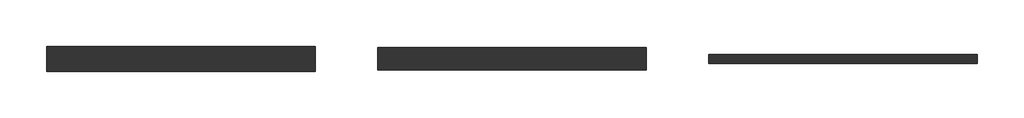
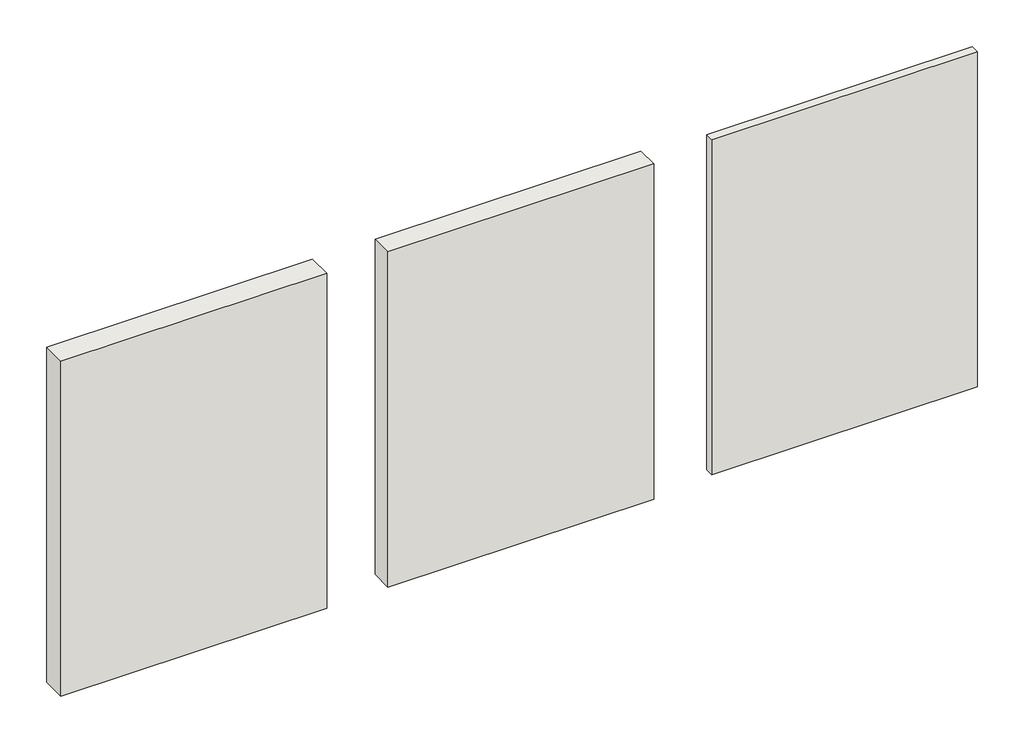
# One storey: 3 walls.
"""IFC4 building model written with IfcOpenShell, lengths in millimetres."""

from ifc_helpers import new_model, si_unit, origin, origin_with_axes, place, context, project, spatial, polyline, outline, extrude, element, save

model = new_model("IFC4")

# Units and contexts
model_context = context("Model", 3, world=origin())
ifc_project = project(units=[si_unit("LENGTHUNIT", "METRE", prefix="MILLI")], contexts=[model_context])

# Site, building, storey
site = spatial("IfcSite", under=ifc_project)
building = spatial("IfcBuilding", under=site)
storey = spatial("IfcBuildingStorey", under=building, Name="Уровень 1", Elevation=0.0)

# Walls
placement = place(None, origin())
element("IfcWall", 1, ObjectType="Перегородка КНАУФ ПГП 100 Применение внутри здания Двойная ПлГ 100", at=placement, inside=storey, context=model_context, shape_type="SweptSolid", body=[
    extrude(outline(polyline([(2657.3606987, -52.2792692), (-342.6393013, -52.2792692), (-342.6393013, 227.7207308), (2657.3606987, 227.7207308), (2657.3606987, -52.2792692)])), origin_with_axes(), (0.0, 0.0, 1.0), 4000.0),
])
element("IfcWall", 2, ObjectType="Перегородка КНАУФ ПГП 100 Применение внутри здания Двойная ПлГ 100 Мин.вата", at=placement, inside=storey, context=model_context, shape_type="SweptSolid", body=[
    extrude(outline(polyline([(6357.3606987, -37.2792692), (3357.3606987, -37.2792692), (3357.3606987, 212.7207308), (6357.3606987, 212.7207308), (6357.3606987, -37.2792692)])), origin_with_axes(), (0.0, 0.0, 1.0), 4000.0),
])
element("IfcWall", 3, ObjectType="Перегородка КНАУФ ПГП 100 Применение внутри здания Одинарная ПлГ 100", at=placement, inside=storey, context=model_context, shape_type="SweptSolid", body=[
    extrude(outline(polyline([(10057.3606987, 37.7207308), (7057.3606987, 37.7207308), (7057.3606987, 137.7207308), (10057.3606987, 137.7207308), (10057.3606987, 37.7207308)])), origin_with_axes(), (0.0, 0.0, 1.0), 4000.0),
])

save(model, "model.ifc")
